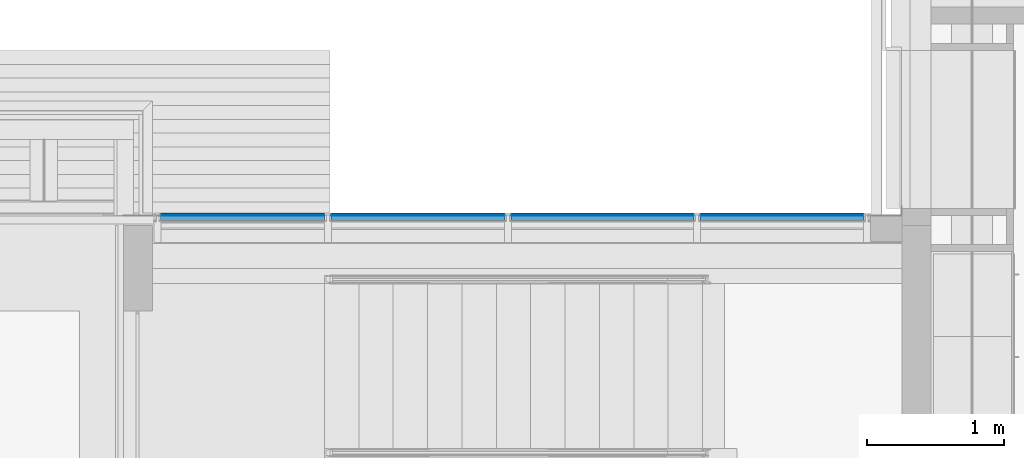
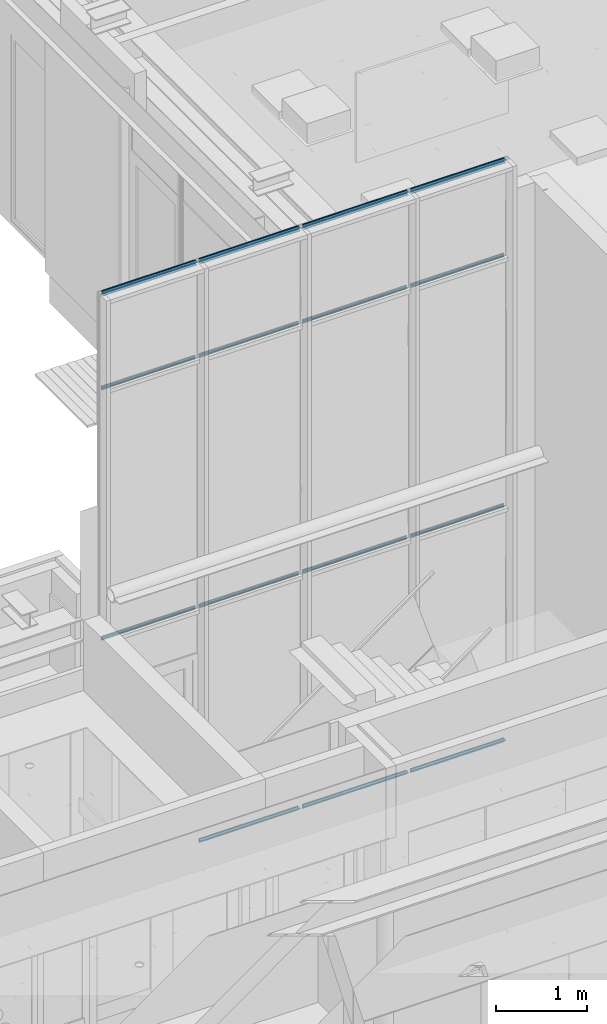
# One storey, part 102 of 347: 15 building element parts, 1 opening, 1 element without a shape of its own.
"""IFC2X3 building model written with IfcOpenShell, lengths in millimetres."""

from ifc_helpers import new_model, entity, si_unit, converted_unit, derived_unit, money_unit, direction, frame, origin_with_axes, place, context, subcontext, project, spatial, faceted_brep, material, type_object, element, aggregate, save


model = new_model("IFC2X3")

# Units and contexts
model_context = context("Model", 3, precision=0.01, world=origin_with_axes(), true_north=direction((0.0, 1.0)))
plan_context = context("Plan", 3, precision=0.01, world=origin_with_axes(), true_north=direction((0.0, 1.0)))
body_context = subcontext(model_context, "Body", "Model", "MODEL_VIEW")
ifc_project = project(units=[si_unit("LENGTHUNIT", "METRE", prefix="MILLI"), si_unit("AREAUNIT", "SQUARE_METRE"), si_unit("VOLUMEUNIT", "CUBIC_METRE"), converted_unit("PLANEANGLEUNIT", "DEGREE", entity("IfcPlaneAngleMeasure", 0.0174532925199), si_unit("PLANEANGLEUNIT", "RADIAN"), dimensions=[0, 0, 0, 0, 0, 0, 0]), money_unit("EUR"), converted_unit("TIMEUNIT", "Year", entity("IfcTimeMeasure", 31556926.0), si_unit("TIMEUNIT", "SECOND"), dimensions=[0, 0, 1, 0, 0, 0, 0]), si_unit("MASSUNIT", "GRAM", prefix="KILO"), si_unit("THERMODYNAMICTEMPERATUREUNIT", "DEGREE_CELSIUS"), si_unit("LUMINOUSINTENSITYUNIT", "LUMEN"), si_unit("ENERGYUNIT", "JOULE", prefix="MEGA"), derived_unit("THERMALCONDUCTANCEUNIT", [(si_unit("POWERUNIT", "WATT"), 1), (si_unit("LENGTHUNIT", "METRE"), -1), (si_unit("THERMODYNAMICTEMPERATUREUNIT", "KELVIN"), -1)]), derived_unit("SPECIFICHEATCAPACITYUNIT", [(si_unit("ENERGYUNIT", "JOULE"), 1), (si_unit("MASSUNIT", "GRAM", prefix="KILO"), -1), (si_unit("THERMODYNAMICTEMPERATUREUNIT", "KELVIN"), -1)]), derived_unit("MASSDENSITYUNIT", [(si_unit("MASSUNIT", "GRAM", prefix="KILO"), 1), (si_unit("VOLUMEUNIT", "CUBIC_METRE"), -1)])], contexts=[model_context, plan_context])

# Site, building, storey
site_placement = place(None, origin_with_axes())
site = spatial("IfcSite", under=ifc_project, at=site_placement, Name="Site", CompositionType="ELEMENT")
building_placement = place(site_placement, origin_with_axes())
building = spatial("IfcBuilding", under=site, at=building_placement, Name="Naam gebouw", CompositionType="ELEMENT")
storey_placement = place(building_placement, origin_with_axes())
storey = spatial("IfcBuildingStorey", under=building, at=storey_placement, Name="begane grond", CompositionType="ELEMENT", Elevation=0.0)

# Proxy, opening, building element parts
building_element_proxy_type = type_object("IfcBuildingElementProxyType", Name="31 vliesgevel drsn 212 x 8350", PredefinedType="NOTDEFINED")
proxy_placement = place(storey_placement, frame((18665.0, 18595.0, 0.0), z_axis=(0.0, 0.0, 1.0), x_axis=(1.0, 0.0, 0.0)))
proxy = element("IfcBuildingElementProxy", 1, at=proxy_placement, inside=storey, type_object=building_element_proxy_type, Name="42_53 wandtegels keramisch")
opening_placement = place(proxy_placement, frame((600.000000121, 0.0, -40.0), z_axis=(0.0, 0.0, 1.0), x_axis=(1.0, 0.0, 0.0)))
element("IfcOpeningElement", 2, at=opening_placement, cuts=proxy, Name="32_merk-C1", context=body_context, shape_type="Brep", body=[
    faceted_brep([(-601.999999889, 1541.00000358, 2640.0), (-601.999999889, 1541.00000358, 0.0), (-601.999999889, -1965.00001073, 0.0), (-601.999999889, -1965.00001073, 2640.0), (601.999999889, 1541.00000358, 2640.0), (601.999999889, 1541.00000358, 0.0), (601.999999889, -1965.00001073, 0.0), (601.999999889, -1965.00001073, 2640.0)], [[[0, 1, 2, 3]], [[0, 4, 5, 1]], [[1, 5, 6, 2]], [[3, 2, 6, 7]], [[4, 0, 3, 7]], [[5, 4, 7, 6]]]),
])
ifc_material_1 = material(Name="Metaal - Aluminium")
building_element_part_1_placement = place(proxy_placement, origin_with_axes())
building_element_part_1 = element("IfcBuildingElementPart", 3, at=building_element_part_1_placement, material=ifc_material_1, Name="Metaal - Aluminium", context=body_context, shape_type="Brep", body=[
    faceted_brep([(9.99999999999, 17.0, 7790.0), (9.99999999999, 17.0, 7840.0), (1200.0, 17.0, 7840.0), (1200.0, 17.0, 7790.0), (9.99999999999, 5.00000000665, 7840.0), (9.99999999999, 5.00000000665, 7790.0), (1200.0, 5.0, 7840.0), (1200.0, 5.0, 7790.0)], [[[0, 1, 2, 3]], [[4, 1, 0, 5]], [[1, 4, 6, 2]], [[3, 2, 6, 7]], [[5, 0, 3, 7]], [[4, 5, 7, 6]]]),
    faceted_brep([(3935.0, 17.0, 7790.0), (3935.0, 17.0, 7840.0), (5119.99999993, 17.0, 7840.0), (5119.99999993, 17.0, 7790.0), (3935.0, 5.0, 7840.0), (3935.0, 5.0, 7790.0), (5119.99999993, 5.0, 7840.0), (5119.99999993, 5.0, 7790.0)], [[[0, 1, 2, 3]], [[4, 1, 0, 5]], [[1, 4, 6, 2]], [[7, 3, 2, 6]], [[5, 0, 3, 7]], [[4, 5, 7, 6]]]),
    faceted_brep([(2560.0, 17.0, 7790.0), (2560.0, 17.0, 7840.0), (3885.0, 17.0, 7840.0), (3885.0, 17.0, 7790.0), (2560.0, 4.99999927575, 7840.0), (2560.0, 4.99999927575, 7790.0), (3885.0, 5.0, 7840.0), (3885.0, 5.0, 7790.0)], [[[0, 1, 2, 3]], [[4, 1, 0, 5]], [[1, 4, 6, 2]], [[3, 2, 6, 7]], [[5, 0, 3, 7]], [[4, 5, 7, 6]]]),
    faceted_brep([(1250.0, 17.0, 7790.0), (1250.0, 17.0, 7840.0), (2510.0, 17.0, 7840.0), (2510.0, 17.0, 7790.0), (1250.0, 5.0, 7840.0), (1250.0, 5.0, 7790.0), (2510.0, 4.99999927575, 7840.0), (2510.0, 4.99999927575, 7790.0)], [[[0, 1, 2, 3]], [[4, 1, 0, 5]], [[1, 4, 6, 2]], [[3, 2, 6, 7]], [[5, 0, 3, 7]], [[4, 5, 7, 6]]]),
])
building_element_part_2_placement = place(proxy_placement, origin_with_axes())
building_element_part_2 = element("IfcBuildingElementPart", 4, at=building_element_part_2_placement, material=ifc_material_1, Name="Metaal - Aluminium", context=body_context, shape_type="Brep", body=[
    faceted_brep([(9.99999999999, 17.0, 6510.0), (9.99999999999, 17.0, 6560.0), (1200.0, 17.0, 6560.0), (1200.0, 17.0, 6510.0), (9.99999999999, 5.00000000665, 6560.0), (9.99999999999, 5.00000000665, 6510.0), (1200.0, 5.0, 6560.0), (1200.0, 5.0, 6510.0)], [[[0, 1, 2, 3]], [[4, 1, 0, 5]], [[1, 4, 6, 2]], [[3, 2, 6, 7]], [[5, 0, 3, 7]], [[4, 5, 7, 6]]]),
    faceted_brep([(3935.0, 17.0, 6510.0), (3935.0, 17.0, 6560.0), (5119.99999993, 17.0, 6560.0), (5119.99999993, 17.0, 6510.0), (3935.0, 5.0, 6560.0), (3935.0, 5.0, 6510.0), (5119.99999993, 5.0, 6560.0), (5119.99999993, 5.0, 6510.0)], [[[0, 1, 2, 3]], [[4, 1, 0, 5]], [[1, 4, 6, 2]], [[7, 3, 2, 6]], [[5, 0, 3, 7]], [[4, 5, 7, 6]]]),
    faceted_brep([(2560.0, 17.0, 6510.0), (2560.0, 17.0, 6560.0), (3885.0, 17.0, 6560.0), (3885.0, 17.0, 6510.0), (2560.0, 4.99999927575, 6560.0), (2560.0, 4.99999927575, 6510.0), (3885.0, 5.0, 6560.0), (3885.0, 5.0, 6510.0)], [[[0, 1, 2, 3]], [[4, 1, 0, 5]], [[1, 4, 6, 2]], [[3, 2, 6, 7]], [[5, 0, 3, 7]], [[4, 5, 7, 6]]]),
    faceted_brep([(1250.0, 17.0, 6510.0), (1250.0, 17.0, 6560.0), (2510.0, 17.0, 6560.0), (2510.0, 17.0, 6510.0), (1250.0, 5.0, 6560.0), (1250.0, 5.0, 6510.0), (2510.0, 4.99999927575, 6560.0), (2510.0, 4.99999927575, 6510.0)], [[[0, 1, 2, 3]], [[4, 1, 0, 5]], [[1, 4, 6, 2]], [[3, 2, 6, 7]], [[5, 0, 3, 7]], [[4, 5, 7, 6]]]),
])
building_element_part_3_placement = place(proxy_placement, origin_with_axes())
building_element_part_3 = element("IfcBuildingElementPart", 5, at=building_element_part_3_placement, material=ifc_material_1, Name="Metaal - Aluminium", context=body_context, shape_type="Brep", body=[
    faceted_brep([(9.99999999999, 17.0, 3150.0), (9.99999999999, 17.0, 3200.0), (1200.0, 17.0, 3200.0), (1200.0, 17.0, 3150.0), (9.99999999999, 5.00000000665, 3200.0), (9.99999999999, 5.00000000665, 3150.0), (1200.0, 5.0, 3200.0), (1200.0, 5.0, 3150.0)], [[[0, 1, 2, 3]], [[4, 1, 0, 5]], [[1, 4, 6, 2]], [[3, 2, 6, 7]], [[5, 0, 3, 7]], [[4, 5, 7, 6]]]),
    faceted_brep([(3935.0, 17.0, 3150.0), (3935.0, 17.0, 3200.0), (5119.99999993, 17.0, 3200.0), (5119.99999993, 17.0, 3150.0), (3935.0, 5.0, 3200.0), (3935.0, 5.0, 3150.0), (5119.99999993, 5.0, 3200.0), (5119.99999993, 5.0, 3150.0)], [[[0, 1, 2, 3]], [[4, 1, 0, 5]], [[1, 4, 6, 2]], [[7, 3, 2, 6]], [[5, 0, 3, 7]], [[4, 5, 7, 6]]]),
    faceted_brep([(2560.0, 17.0, 3150.0), (2560.0, 17.0, 3200.0), (3885.0, 17.0, 3200.0), (3885.0, 17.0, 3150.0), (2560.0, 4.99999927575, 3200.0), (2560.0, 4.99999927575, 3150.0), (3885.0, 5.0, 3200.0), (3885.0, 5.0, 3150.0)], [[[0, 1, 2, 3]], [[4, 1, 0, 5]], [[1, 4, 6, 2]], [[3, 2, 6, 7]], [[5, 0, 3, 7]], [[4, 5, 7, 6]]]),
    faceted_brep([(1250.0, 17.0, 3150.0), (1250.0, 17.0, 3200.0), (2510.0, 17.0, 3200.0), (2510.0, 17.0, 3150.0), (1250.0, 5.0, 3200.0), (1250.0, 5.0, 3150.0), (2510.0, 4.99999927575, 3200.0), (2510.0, 4.99999927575, 3150.0)], [[[0, 1, 2, 3]], [[4, 1, 0, 5]], [[1, 4, 6, 2]], [[3, 2, 6, 7]], [[5, 0, 3, 7]], [[4, 5, 7, 6]]]),
])
building_element_part_4_placement = place(proxy_placement, origin_with_axes())
building_element_part_4 = element("IfcBuildingElementPart", 6, at=building_element_part_4_placement, material=ifc_material_1, Name="Metaal - Aluminium", context=body_context, shape_type="Brep", body=[
    faceted_brep([(3935.0, 17.0, 0.0), (3935.0, 17.0, 50.0), (5119.99999993, 17.0, 50.0), (5119.99999993, 17.0, 0.0), (3935.0, 5.0, 50.0), (3935.0, 5.0, 0.0), (5119.99999993, 5.0, 50.0), (5119.99999993, 5.0, 0.0)], [[[0, 1, 2, 3]], [[4, 1, 0, 5]], [[1, 4, 6, 2]], [[7, 3, 2, 6]], [[5, 0, 3, 7]], [[4, 5, 7, 6]]]),
    faceted_brep([(2560.0, 17.0, 0.0), (2560.0, 17.0, 50.0), (3885.0, 17.0, 50.0), (3885.0, 17.0, 0.0), (2560.0, 4.99999927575, 50.0), (2560.0, 4.99999927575, 0.0), (3885.0, 5.0, 50.0), (3885.0, 5.0, 0.0)], [[[0, 1, 2, 3]], [[4, 1, 0, 5]], [[1, 4, 6, 2]], [[3, 2, 6, 7]], [[5, 0, 3, 7]], [[4, 5, 7, 6]]]),
    faceted_brep([(1250.0, 17.0, 0.0), (1250.0, 17.0, 50.0), (2510.0, 17.0, 50.0), (2510.0, 17.0, 0.0), (1250.0, 5.0, 50.0), (1250.0, 5.0, 0.0), (2510.0, 4.99999927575, 50.0), (2510.0, 4.99999927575, 0.0)], [[[0, 1, 2, 3]], [[4, 1, 0, 5]], [[1, 4, 6, 2]], [[3, 2, 6, 7]], [[5, 0, 3, 7]], [[4, 5, 7, 6]]]),
])
ifc_material_2 = material(Name="Membraan - rubber")
building_element_part_5_placement = place(proxy_placement, origin_with_axes())
building_element_part_5 = element("IfcBuildingElementPart", 7, at=building_element_part_5_placement, material=ifc_material_2, Name="Membraan - rubber", context=body_context, shape_type="Brep", body=[
    faceted_brep([(3935.00000024, 5.00000096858, 0.0), (3935.00000024, 5.00000096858, 15.000000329), (5119.99999993, 5.00000081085, 15.000000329), (5119.99999993, 5.00000081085, 0.0), (3935.00000024, 9.44361033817e-07, 15.000000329), (3935.00000024, 9.44361033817e-07, 0.0), (3935.00000024, 9.44361033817e-07, 2.00000004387), (5119.99999993, 7.01170677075e-07, 15.000000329), (5119.99999993, 3.6814071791e-06, 2.98023516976e-06), (5119.99999993, 7.01170677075e-07, 2.00000004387)], [[[0, 1, 2, 3]], [[4, 1, 0, 5, 6]], [[1, 4, 7, 2]], [[8, 3, 2, 7, 9]], [[5, 0, 3, 8]], [[6, 5, 8, 9]], [[4, 6, 9, 7]]]),
    faceted_brep([(2560.00000024, 5.00000024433, 0.0), (2560.00000024, 5.00000024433, 15.000000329), (3885.0, 5.00000096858, 15.000000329), (3885.0, 5.00000096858, 0.0), (2560.00000024, 2.20115481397e-07, 15.000000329), (2560.00000024, 2.20115481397e-07, 0.0), (2560.00000024, 2.20115481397e-07, 2.00000004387), (3885.0, 9.44361033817e-07, 15.000000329), (3885.0, 9.44361033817e-07, 2.00000004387), (3885.0, 9.44361033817e-07, 0.0)], [[[0, 1, 2, 3]], [[4, 1, 0, 5, 6]], [[1, 4, 7, 2]], [[3, 2, 7, 8, 9]], [[5, 0, 3, 9]], [[6, 5, 9, 8]], [[4, 6, 8, 7]]]),
    faceted_brep([(1250.00000024, 5.00000096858, 0.0), (1250.00000024, 5.00000096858, 15.000000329), (2510.0, 5.00000024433, 15.000000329), (2510.0, 5.00000024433, 0.0), (1250.00000024, 9.44361033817e-07, 15.000000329), (1250.00000024, 9.44361033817e-07, 0.0), (1250.00000024, 9.44361033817e-07, 2.00000004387), (2510.0, 2.20115481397e-07, 15.000000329), (2510.0, 2.20115481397e-07, 2.00000004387), (2510.0, 2.20115481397e-07, 0.0)], [[[0, 1, 2, 3]], [[4, 1, 0, 5, 6]], [[1, 4, 7, 2]], [[3, 2, 7, 8, 9]], [[5, 0, 3, 9]], [[6, 5, 9, 8]], [[4, 6, 8, 7]]]),
])
building_element_part_6_placement = place(proxy_placement, origin_with_axes())
building_element_part_6 = element("IfcBuildingElementPart", 8, at=building_element_part_6_placement, material=ifc_material_2, Name="Membraan - rubber", context=body_context, shape_type="Brep", body=[
    faceted_brep([(10.0000002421, 5.00000097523, 7825.00000018), (10.0000002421, 5.00000097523, 7840.0), (1200.0, 5.00000096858, 7840.0), (1200.0, 5.00000096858, 7825.00000018), (10.0000002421, 9.51015266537e-07, 7840.0), (10.0000002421, 9.51015266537e-07, 7825.00000018), (10.0000002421, 9.51015266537e-07, 7838.00000024), (1200.0, 9.44361033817e-07, 7840.0), (1200.0, 9.44361033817e-07, 7838.00000024), (1200.0, 9.44361033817e-07, 7825.00000018)], [[[0, 1, 2, 3]], [[4, 1, 0, 5, 6]], [[1, 4, 7, 2]], [[3, 2, 7, 8, 9]], [[5, 0, 3, 9]], [[6, 5, 9, 8]], [[4, 6, 8, 7]]]),
    faceted_brep([(3935.00000024, 5.00000096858, 7825.00000018), (3935.00000024, 5.00000096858, 7840.0), (5119.99999993, 5.00000101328, 7840.00000025), (5119.99999993, 5.00000101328, 7825.00000018), (3935.00000024, 9.44361033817e-07, 7840.0), (3935.00000024, 9.44361033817e-07, 7825.00000018), (3935.00000024, 9.44361033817e-07, 7838.00000024), (5119.99999993, 9.87949277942e-07, 7840.00000025), (5119.99999993, 9.87949277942e-07, 7825.00000018), (5119.99999993, 9.87949277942e-07, 7838.00000024)], [[[0, 1, 2, 3]], [[4, 1, 0, 5, 6]], [[1, 4, 7, 2]], [[8, 3, 2, 7, 9]], [[5, 0, 3, 8]], [[6, 5, 8, 9]], [[4, 6, 9, 7]]]),
    faceted_brep([(2560.00000024, 5.00000024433, 7825.00000018), (2560.00000024, 5.00000024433, 7840.0), (3885.0, 5.00000096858, 7840.0), (3885.0, 5.00000096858, 7825.00000018), (2560.00000024, 2.20115481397e-07, 7840.0), (2560.00000024, 2.20115481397e-07, 7825.00000018), (2560.00000024, 2.20115481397e-07, 7838.00000024), (3885.0, 9.44361033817e-07, 7840.0), (3885.0, 9.44361033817e-07, 7838.00000024), (3885.0, 9.44361033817e-07, 7825.00000018)], [[[0, 1, 2, 3]], [[4, 1, 0, 5, 6]], [[1, 4, 7, 2]], [[3, 2, 7, 8, 9]], [[5, 0, 3, 9]], [[6, 5, 9, 8]], [[4, 6, 8, 7]]]),
    faceted_brep([(1250.00000024, 5.00000096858, 7825.00000018), (1250.00000024, 5.00000096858, 7840.0), (2510.0, 5.00000024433, 7840.0), (2510.0, 5.00000024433, 7825.00000018), (1250.00000024, 9.44361033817e-07, 7840.0), (1250.00000024, 9.44361033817e-07, 7825.00000018), (1250.00000024, 9.44361033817e-07, 7838.00000024), (2510.0, 2.20115481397e-07, 7840.0), (2510.0, 2.20115481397e-07, 7838.00000024), (2510.0, 2.20115481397e-07, 7825.00000018)], [[[0, 1, 2, 3]], [[4, 1, 0, 5, 6]], [[1, 4, 7, 2]], [[3, 2, 7, 8, 9]], [[5, 0, 3, 9]], [[6, 5, 9, 8]], [[4, 6, 8, 7]]]),
])
building_element_part_7_placement = place(proxy_placement, origin_with_axes())
building_element_part_7 = element("IfcBuildingElementPart", 9, at=building_element_part_7_placement, material=ifc_material_2, Name="Membraan - rubber", context=body_context, shape_type="Brep", body=[
    faceted_brep([(10.0000002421, 5.00000097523, 7790.0), (10.0000002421, 5.00000097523, 7805.00000008), (1200.0, 5.00000096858, 7805.00000008), (1200.0, 5.00000096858, 7790.0), (10.0000002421, 9.51015266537e-07, 7805.00000008), (10.0000002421, 9.51015266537e-07, 7790.0), (1200.0, 9.44361033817e-07, 7805.00000008), (1200.0, 9.44361033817e-07, 7790.0)], [[[0, 1, 2, 3]], [[4, 1, 0, 5]], [[1, 4, 6, 2]], [[3, 2, 6, 7]], [[5, 0, 3, 7]], [[4, 5, 7, 6]]]),
    faceted_brep([(3935.00000024, 5.00000096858, 7790.0), (3935.00000024, 5.00000096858, 7805.00000008), (5119.99999993, 5.00000101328, 7805.00000008), (5119.99999993, 5.00000101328, 7790.0), (3935.00000024, 9.44361033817e-07, 7805.00000008), (3935.00000024, 9.44361033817e-07, 7790.0), (5119.99999993, 9.87949277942e-07, 7805.00000008), (5119.99999993, 9.87949277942e-07, 7790.0)], [[[0, 1, 2, 3]], [[4, 1, 0, 5]], [[1, 4, 6, 2]], [[3, 2, 6, 7]], [[5, 0, 3, 7]], [[4, 5, 7, 6]]]),
    faceted_brep([(2560.00000024, 5.00000024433, 7790.0), (2560.00000024, 5.00000024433, 7805.00000008), (3885.0, 5.00000096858, 7805.00000008), (3885.0, 5.00000096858, 7790.0), (2560.00000024, 2.20115481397e-07, 7805.00000008), (2560.00000024, 2.20115481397e-07, 7790.0), (3885.0, 9.44361033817e-07, 7805.00000008), (3885.0, 9.44361033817e-07, 7790.0)], [[[0, 1, 2, 3]], [[4, 1, 0, 5]], [[1, 4, 6, 2]], [[3, 2, 6, 7]], [[5, 0, 3, 7]], [[4, 5, 7, 6]]]),
    faceted_brep([(1250.00000024, 5.00000096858, 7790.0), (1250.00000024, 5.00000096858, 7805.00000008), (2510.0, 5.00000024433, 7805.00000008), (2510.0, 5.00000024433, 7790.0), (1250.00000024, 9.44361033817e-07, 7805.00000008), (1250.00000024, 9.44361033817e-07, 7790.0), (2510.0, 2.20115481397e-07, 7805.00000008), (2510.0, 2.20115481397e-07, 7790.0)], [[[0, 1, 2, 3]], [[4, 1, 0, 5]], [[1, 4, 6, 2]], [[3, 2, 6, 7]], [[5, 0, 3, 7]], [[4, 5, 7, 6]]]),
])
building_element_part_8_placement = place(proxy_placement, origin_with_axes())
building_element_part_8 = element("IfcBuildingElementPart", 10, at=building_element_part_8_placement, material=ifc_material_2, Name="Membraan - rubber", context=body_context, shape_type="Brep", body=[
    faceted_brep([(3935.00000024, 5.00000096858, 35.0000007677), (3935.00000024, 5.00000096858, 50.0000010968), (5119.99999993, 5.00000081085, 50.0000010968), (5119.99999993, 5.00000081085, 35.0000007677), (3935.00000024, 9.44361033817e-07, 50.0000010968), (3935.00000024, 9.44361033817e-07, 35.0000007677), (5119.99999993, 7.01170677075e-07, 50.0000010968), (5119.99999993, 7.01170677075e-07, 35.0000007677)], [[[0, 1, 2, 3]], [[4, 1, 0, 5]], [[1, 4, 6, 2]], [[6, 7, 3, 2]], [[5, 0, 3, 7]], [[4, 5, 7, 6]]]),
    faceted_brep([(2560.00000024, 5.00000024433, 35.0000007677), (2560.00000024, 5.00000024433, 50.0000010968), (3885.0, 5.00000096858, 50.0000010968), (3885.0, 5.00000096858, 35.0000007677), (2560.00000024, 2.20115481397e-07, 50.0000010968), (2560.00000024, 2.20115481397e-07, 35.0000007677), (3885.0, 9.44361033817e-07, 50.0000010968), (3885.0, 9.44361033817e-07, 35.0000007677)], [[[0, 1, 2, 3]], [[4, 1, 0, 5]], [[1, 4, 6, 2]], [[3, 2, 6, 7]], [[5, 0, 3, 7]], [[4, 5, 7, 6]]]),
    faceted_brep([(1250.00000024, 5.00000096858, 35.0000007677), (1250.00000024, 5.00000096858, 50.0000010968), (2510.0, 5.00000024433, 50.0000010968), (2510.0, 5.00000024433, 35.0000007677), (1250.00000024, 9.44361033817e-07, 50.0000010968), (1250.00000024, 9.44361033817e-07, 35.0000007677), (2510.0, 2.20115481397e-07, 50.0000010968), (2510.0, 2.20115481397e-07, 35.0000007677)], [[[0, 1, 2, 3]], [[4, 1, 0, 5]], [[1, 4, 6, 2]], [[3, 2, 6, 7]], [[5, 0, 3, 7]], [[4, 5, 7, 6]]]),
])
building_element_part_9_placement = place(proxy_placement, origin_with_axes())
building_element_part_9 = element("IfcBuildingElementPart", 11, at=building_element_part_9_placement, material=ifc_material_2, Name="Membraan - rubber", context=body_context, shape_type="Brep", body=[
    faceted_brep([(10.0000002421, 5.00000097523, 3150.0), (10.0000002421, 5.00000097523, 3165.00000083), (1200.0, 5.00000096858, 3165.00000083), (1200.0, 5.00000096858, 3150.0), (10.0000002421, 9.51015266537e-07, 3164.99999964), (10.0000002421, 9.51015266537e-07, 3150.0), (1200.0, 9.44361033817e-07, 3164.99999964), (1200.0, 9.44361033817e-07, 3150.0)], [[[0, 1, 2, 3]], [[4, 1, 0, 5]], [[1, 4, 6, 2]], [[3, 2, 6, 7]], [[5, 0, 3, 7]], [[4, 5, 7, 6]]]),
    faceted_brep([(3935.00000024, 5.00000096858, 3150.0), (3935.00000024, 5.00000096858, 3165.00000083), (5119.99999993, 5.0, 3165.00000083), (5119.99999993, 5.0, 3150.0), (3935.00000024, 9.44361033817e-07, 3164.99999964), (3935.00000024, 9.44361033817e-07, 3150.0), (5119.99999993, -6.74667433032e-07, 3164.99999964), (5119.99999993, -7.86215537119e-08, 3150.0)], [[[0, 1, 2, 3]], [[4, 1, 0, 5]], [[1, 4, 6, 2]], [[7, 3, 2, 6]], [[5, 0, 3, 7]], [[4, 5, 7, 6]]]),
    faceted_brep([(2560.00000024, 5.00000024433, 3150.0), (2560.00000024, 5.00000024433, 3165.00000083), (3885.0, 5.00000096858, 3165.00000083), (3885.0, 5.00000096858, 3150.0), (2560.00000024, 2.20115481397e-07, 3164.99999964), (2560.00000024, 2.20115481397e-07, 3150.0), (3885.0, 9.44361033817e-07, 3164.99999964), (3885.0, 9.44361033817e-07, 3150.0)], [[[0, 1, 2, 3]], [[4, 1, 0, 5]], [[1, 4, 6, 2]], [[3, 2, 6, 7]], [[5, 0, 3, 7]], [[4, 5, 7, 6]]]),
    faceted_brep([(1250.00000024, 5.00000096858, 3150.0), (1250.00000024, 5.00000096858, 3165.00000083), (2510.0, 5.00000024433, 3165.00000083), (2510.0, 5.00000024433, 3150.0), (1250.00000024, 9.44361033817e-07, 3164.99999964), (1250.00000024, 9.44361033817e-07, 3150.0), (2510.0, 2.20115481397e-07, 3164.99999964), (2510.0, 2.20115481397e-07, 3150.0)], [[[0, 1, 2, 3]], [[4, 1, 0, 5]], [[1, 4, 6, 2]], [[3, 2, 6, 7]], [[5, 0, 3, 7]], [[4, 5, 7, 6]]]),
])
building_element_part_10_placement = place(proxy_placement, origin_with_axes())
building_element_part_10 = element("IfcBuildingElementPart", 12, at=building_element_part_10_placement, material=ifc_material_2, Name="Membraan - rubber", context=body_context, shape_type="Brep", body=[
    faceted_brep([(10.0000002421, 5.00000097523, 6510.0), (10.0000002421, 5.00000097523, 6525.00000083), (1200.0, 5.00000096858, 6525.00000083), (1200.0, 5.00000096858, 6510.0), (10.0000002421, 9.51015266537e-07, 6524.99999964), (10.0000002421, 9.51015266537e-07, 6510.0), (1200.0, 9.44361033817e-07, 6524.99999964), (1200.0, 9.44361033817e-07, 6510.0)], [[[0, 1, 2, 3]], [[4, 1, 0, 5]], [[1, 4, 6, 2]], [[3, 2, 6, 7]], [[5, 0, 3, 7]], [[4, 5, 7, 6]]]),
    faceted_brep([(3935.00000024, 5.00000096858, 6510.0), (3935.00000024, 5.00000096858, 6525.00000083), (5119.99999993, 5.0, 6525.00000083), (5119.99999993, 5.0, 6510.0), (3935.00000024, 9.44361033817e-07, 6524.99999964), (3935.00000024, 9.44361033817e-07, 6510.0), (5119.99999993, -6.74667433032e-07, 6524.99999964), (5119.99999993, -7.86215537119e-08, 6510.0)], [[[0, 1, 2, 3]], [[4, 1, 0, 5]], [[1, 4, 6, 2]], [[3, 2, 6, 7]], [[5, 0, 3, 7]], [[4, 5, 7, 6]]]),
    faceted_brep([(2560.00000024, 5.00000024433, 6510.0), (2560.00000024, 5.00000024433, 6525.00000083), (3885.0, 5.00000096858, 6525.00000083), (3885.0, 5.00000096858, 6510.0), (2560.00000024, 2.20115481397e-07, 6524.99999964), (2560.00000024, 2.20115481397e-07, 6510.0), (3885.0, 9.44361033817e-07, 6524.99999964), (3885.0, 9.44361033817e-07, 6510.0)], [[[0, 1, 2, 3]], [[4, 1, 0, 5]], [[1, 4, 6, 2]], [[3, 2, 6, 7]], [[5, 0, 3, 7]], [[4, 5, 7, 6]]]),
    faceted_brep([(1250.00000024, 5.00000096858, 6510.0), (1250.00000024, 5.00000096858, 6525.00000083), (2510.0, 5.00000024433, 6525.00000083), (2510.0, 5.00000024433, 6510.0), (1250.00000024, 9.44361033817e-07, 6524.99999964), (1250.00000024, 9.44361033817e-07, 6510.0), (2510.0, 2.20115481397e-07, 6524.99999964), (2510.0, 2.20115481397e-07, 6510.0)], [[[0, 1, 2, 3]], [[4, 1, 0, 5]], [[1, 4, 6, 2]], [[3, 2, 6, 7]], [[5, 0, 3, 7]], [[4, 5, 7, 6]]]),
])
building_element_part_11_placement = place(proxy_placement, origin_with_axes())
building_element_part_11 = element("IfcBuildingElementPart", 13, at=building_element_part_11_placement, material=ifc_material_2, Name="Membraan - rubber", context=body_context, shape_type="Brep", body=[
    faceted_brep([(10.0000002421, 5.00000097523, 6545.00000011), (10.0000002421, 5.00000097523, 6559.99999975), (1200.0, 5.00000096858, 6559.99999975), (1200.0, 5.00000096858, 6545.00000011), (10.0000002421, 9.51015266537e-07, 6559.99999975), (10.0000002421, 9.51015266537e-07, 6545.00000011), (1200.0, 9.44361033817e-07, 6559.99999975), (1200.0, 9.44361033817e-07, 6545.00000011)], [[[0, 1, 2, 3]], [[4, 1, 0, 5]], [[1, 4, 6, 2]], [[3, 2, 6, 7]], [[5, 0, 3, 7]], [[4, 5, 7, 6]]]),
    faceted_brep([(3935.00000024, 5.00000096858, 6545.00000011), (3935.00000024, 5.00000096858, 6559.99999975), (5119.99999993, 5.0, 6559.99999975), (5119.99999993, 5.0, 6545.00000011), (3935.00000024, 9.44361033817e-07, 6559.99999975), (3935.00000024, 9.44361033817e-07, 6545.00000011), (5119.99999993, -7.86215537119e-08, 6559.99999975), (5119.99999993, -6.74667433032e-07, 6545.00000011)], [[[0, 1, 2, 3]], [[4, 1, 0, 5]], [[1, 4, 6, 2]], [[7, 3, 2, 6]], [[5, 0, 3, 7]], [[4, 5, 7, 6]]]),
    faceted_brep([(2560.00000024, 5.00000024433, 6545.00000011), (2560.00000024, 5.00000024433, 6559.99999975), (3885.0, 5.00000096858, 6559.99999975), (3885.0, 5.00000096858, 6545.00000011), (2560.00000024, 2.20115481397e-07, 6559.99999975), (2560.00000024, 2.20115481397e-07, 6545.00000011), (3885.0, 9.44361033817e-07, 6559.99999975), (3885.0, 9.44361033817e-07, 6545.00000011)], [[[0, 1, 2, 3]], [[4, 1, 0, 5]], [[1, 4, 6, 2]], [[3, 2, 6, 7]], [[5, 0, 3, 7]], [[4, 5, 7, 6]]]),
    faceted_brep([(1250.00000024, 5.00000096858, 6545.00000011), (1250.00000024, 5.00000096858, 6559.99999975), (2510.0, 5.00000024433, 6559.99999975), (2510.0, 5.00000024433, 6545.00000011), (1250.00000024, 9.44361033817e-07, 6559.99999975), (1250.00000024, 9.44361033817e-07, 6545.00000011), (2510.0, 2.20115481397e-07, 6559.99999975), (2510.0, 2.20115481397e-07, 6545.00000011)], [[[0, 1, 2, 3]], [[4, 1, 0, 5]], [[1, 4, 6, 2]], [[3, 2, 6, 7]], [[5, 0, 3, 7]], [[4, 5, 7, 6]]]),
])
building_element_part_12_placement = place(proxy_placement, origin_with_axes())
building_element_part_12 = element("IfcBuildingElementPart", 14, at=building_element_part_12_placement, material=ifc_material_2, Name="Membraan - rubber", context=body_context, shape_type="Brep", body=[
    faceted_brep([(10.0000002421, 5.00000097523, 3185.00000011), (10.0000002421, 5.00000097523, 3199.99999975), (1200.0, 5.00000096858, 3199.99999975), (1200.0, 5.00000096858, 3185.00000011), (10.0000002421, 9.51015266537e-07, 3199.99999975), (10.0000002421, 9.51015266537e-07, 3185.00000011), (1200.0, 9.44361033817e-07, 3199.99999975), (1200.0, 9.44361033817e-07, 3185.00000011)], [[[0, 1, 2, 3]], [[4, 1, 0, 5]], [[1, 4, 6, 2]], [[3, 2, 6, 7]], [[5, 0, 3, 7]], [[4, 5, 7, 6]]]),
    faceted_brep([(3935.00000024, 5.00000096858, 3185.00000011), (3935.00000024, 5.00000096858, 3199.99999975), (5119.99999993, 5.0, 3199.99999975), (5119.99999993, 5.0, 3185.00000011), (3935.00000024, 9.44361033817e-07, 3199.99999975), (3935.00000024, 9.44361033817e-07, 3185.00000011), (5119.99999993, -7.86215537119e-08, 3199.99999975), (5119.99999993, -6.74667433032e-07, 3185.00000011)], [[[0, 1, 2, 3]], [[4, 1, 0, 5]], [[1, 4, 6, 2]], [[6, 7, 3, 2]], [[5, 0, 3, 7]], [[4, 5, 7, 6]]]),
    faceted_brep([(2560.00000024, 5.00000024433, 3185.00000011), (2560.00000024, 5.00000024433, 3199.99999975), (3885.0, 5.00000096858, 3199.99999975), (3885.0, 5.00000096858, 3185.00000011), (2560.00000024, 2.20115481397e-07, 3199.99999975), (2560.00000024, 2.20115481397e-07, 3185.00000011), (3885.0, 9.44361033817e-07, 3199.99999975), (3885.0, 9.44361033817e-07, 3185.00000011)], [[[0, 1, 2, 3]], [[4, 1, 0, 5]], [[1, 4, 6, 2]], [[3, 2, 6, 7]], [[5, 0, 3, 7]], [[4, 5, 7, 6]]]),
    faceted_brep([(1250.00000024, 5.00000096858, 3185.00000011), (1250.00000024, 5.00000096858, 3199.99999975), (2510.0, 5.00000024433, 3199.99999975), (2510.0, 5.00000024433, 3185.00000011), (1250.00000024, 9.44361033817e-07, 3199.99999975), (1250.00000024, 9.44361033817e-07, 3185.00000011), (2510.0, 2.20115481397e-07, 3199.99999975), (2510.0, 2.20115481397e-07, 3185.00000011)], [[[0, 1, 2, 3]], [[4, 1, 0, 5]], [[1, 4, 6, 2]], [[3, 2, 6, 7]], [[5, 0, 3, 7]], [[4, 5, 7, 6]]]),
])
building_element_part_13_placement = place(proxy_placement, origin_with_axes())
building_element_part_13 = element("IfcBuildingElementPart", 15, at=building_element_part_13_placement, material=ifc_material_2, Name="Membraan - rubber", context=body_context, shape_type="Brep", body=[
    faceted_brep([(8.00000023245, 9.51015266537e-07, 7792.00000001), (8.00000023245, 9.51015266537e-07, 7805.00000008), (1202.00000001, 9.44361033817e-07, 7805.00000008), (1202.00000001, 9.44361033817e-07, 7792.00000001), (8.00000023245, -34.9999992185, 7805.00000008), (8.00000023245, -34.9999992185, 7792.00000001), (1202.00000001, -34.9999992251, 7805.00000008), (1202.00000001, -34.9999992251, 7792.00000001)], [[[0, 1, 2, 3]], [[4, 1, 0, 5]], [[1, 4, 6, 2]], [[3, 2, 6, 7]], [[5, 0, 3, 7]], [[4, 5, 7, 6]]]),
    faceted_brep([(3933.00000023, 9.44361033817e-07, 7792.00000001), (3933.00000023, 9.44361033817e-07, 7805.00000008), (5119.99999993, 9.87949277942e-07, 7805.00000008), (5119.99999993, 9.87949277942e-07, 7792.00000001), (3933.00000023, -34.9999992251, 7805.00000008), (3933.00000023, -34.9999992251, 7792.00000001), (5119.99999993, -34.9999991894, 7805.00000008), (5119.99999993, -34.9999991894, 7792.00000001)], [[[0, 1, 2, 3]], [[4, 1, 0, 5]], [[1, 4, 6, 2]], [[2, 6, 7, 3]], [[5, 0, 3, 7]], [[4, 5, 7, 6]]]),
    faceted_brep([(2558.00000023, 2.20115481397e-07, 7792.00000001), (2558.00000023, 2.20115481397e-07, 7805.00000008), (3887.00000001, 9.44361033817e-07, 7805.00000008), (3887.00000001, 9.44361033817e-07, 7792.00000001), (2558.00000023, -34.9999999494, 7805.00000008), (2558.00000023, -34.9999999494, 7792.00000001), (3887.00000001, -34.9999992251, 7805.00000008), (3887.00000001, -34.9999992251, 7792.00000001)], [[[0, 1, 2, 3]], [[4, 1, 0, 5]], [[1, 4, 6, 2]], [[3, 2, 6, 7]], [[5, 0, 3, 7]], [[4, 5, 7, 6]]]),
    faceted_brep([(1248.00000023, 9.44361033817e-07, 7792.00000001), (1248.00000023, 9.44361033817e-07, 7805.00000008), (2512.00000001, 2.20115481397e-07, 7805.00000008), (2512.00000001, 2.20115481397e-07, 7792.00000001), (1248.00000023, -34.9999992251, 7805.00000008), (1248.00000023, -34.9999992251, 7792.00000001), (2512.00000001, -34.9999999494, 7805.00000008), (2512.00000001, -34.9999999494, 7792.00000001)], [[[0, 1, 2, 3]], [[4, 1, 0, 5]], [[1, 4, 6, 2]], [[3, 2, 6, 7]], [[5, 0, 3, 7]], [[4, 5, 7, 6]]]),
])
building_element_part_14_placement = place(proxy_placement, origin_with_axes())
building_element_part_14 = element("IfcBuildingElementPart", 16, at=building_element_part_14_placement, material=ifc_material_2, Name="Membraan - rubber", context=body_context, shape_type="Brep", body=[
    faceted_brep([(8.00000023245, 9.51015266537e-07, 7825.00000018), (8.00000023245, 9.51015266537e-07, 7838.00000024), (1202.00000001, 9.44361033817e-07, 7838.00000024), (1202.00000001, 9.44361033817e-07, 7825.00000018), (8.00000023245, -34.9999992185, 7838.00000024), (8.00000023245, -34.9999992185, 7825.00000018), (1202.00000001, -34.9999992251, 7838.00000024), (1202.00000001, -34.9999992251, 7825.00000018)], [[[0, 1, 2, 3]], [[4, 1, 0, 5]], [[1, 4, 6, 2]], [[3, 2, 6, 7]], [[5, 0, 3, 7]], [[4, 5, 7, 6]]]),
    faceted_brep([(3933.00000023, 9.44361033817e-07, 7825.00000018), (3933.00000023, 9.44361033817e-07, 7838.00000024), (5119.99999993, 9.87949277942e-07, 7838.00000024), (5119.99999993, 9.87949277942e-07, 7825.00000018), (3933.00000023, -34.9999992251, 7838.00000024), (3933.00000023, -34.9999992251, 7825.00000018), (5119.99999993, -34.9999991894, 7838.00000024), (5119.99999993, -34.9999991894, 7825.00000018)], [[[0, 1, 2, 3]], [[4, 1, 0, 5]], [[1, 4, 6, 2]], [[2, 6, 7, 3]], [[5, 0, 3, 7]], [[4, 5, 7, 6]]]),
    faceted_brep([(2558.00000023, 2.20115481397e-07, 7825.00000018), (2558.00000023, 2.20115481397e-07, 7838.00000024), (3887.00000001, 9.44361033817e-07, 7838.00000024), (3887.00000001, 9.44361033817e-07, 7825.00000018), (2558.00000023, -34.9999999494, 7838.00000024), (2558.00000023, -34.9999999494, 7825.00000018), (3887.00000001, -34.9999992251, 7838.00000024), (3887.00000001, -34.9999992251, 7825.00000018)], [[[0, 1, 2, 3]], [[4, 1, 0, 5]], [[1, 4, 6, 2]], [[3, 2, 6, 7]], [[5, 0, 3, 7]], [[4, 5, 7, 6]]]),
    faceted_brep([(1248.00000023, 9.44361033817e-07, 7825.00000018), (1248.00000023, 9.44361033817e-07, 7838.00000024), (2512.00000001, 2.20115481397e-07, 7838.00000024), (2512.00000001, 2.20115481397e-07, 7825.00000018), (1248.00000023, -34.9999992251, 7838.00000024), (1248.00000023, -34.9999992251, 7825.00000018), (2512.00000001, -34.9999999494, 7838.00000024), (2512.00000001, -34.9999999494, 7825.00000018)], [[[0, 1, 2, 3]], [[4, 1, 0, 5]], [[1, 4, 6, 2]], [[3, 2, 6, 7]], [[5, 0, 3, 7]], [[4, 5, 7, 6]]]),
])
building_element_part_15_placement = place(proxy_placement, origin_with_axes())
building_element_part_15 = element("IfcBuildingElementPart", 17, at=building_element_part_15_placement, material=ifc_material_2, Name="Membraan - rubber", context=body_context, shape_type="Brep", body=[
    faceted_brep([(3933.00000023, 9.44361033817e-07, 35.0000007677), (3933.00000023, 9.44361033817e-07, 48.0000010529), (5119.99999993, 7.01170677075e-07, 48.0000010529), (5119.99999993, 7.01170677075e-07, 35.0000007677), (3933.00000023, -34.9999992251, 48.0000010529), (3933.00000023, -34.9999992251, 35.0000007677), (5119.99999993, -35.0000000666, 48.0000010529), (5119.99999993, -35.0000000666, 35.0000007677)], [[[0, 1, 2, 3]], [[4, 1, 0, 5]], [[1, 4, 6, 2]], [[3, 2, 6, 7]], [[5, 0, 3, 7]], [[4, 5, 7, 6]]]),
    faceted_brep([(2558.00000023, 2.20115481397e-07, 35.0000007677), (2558.00000023, 2.20115481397e-07, 48.0000010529), (3887.00000001, 9.44361033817e-07, 48.0000010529), (3887.00000001, 9.44361033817e-07, 35.0000007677), (2558.00000023, -34.9999999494, 48.0000010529), (2558.00000023, -34.9999999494, 35.0000007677), (3887.00000001, -34.9999992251, 48.0000010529), (3887.00000001, -34.9999992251, 35.0000007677)], [[[0, 1, 2, 3]], [[4, 1, 0, 5]], [[1, 4, 6, 2]], [[3, 2, 6, 7]], [[5, 0, 3, 7]], [[4, 5, 7, 6]]]),
    faceted_brep([(1248.00000023, 9.44361033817e-07, 35.0000007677), (1248.00000023, 9.44361033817e-07, 48.0000010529), (2512.00000001, 2.20115481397e-07, 48.0000010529), (2512.00000001, 2.20115481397e-07, 35.0000007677), (1248.00000023, -34.9999992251, 48.0000010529), (1248.00000023, -34.9999992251, 35.0000007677), (2512.00000001, -34.9999999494, 48.0000010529), (2512.00000001, -34.9999999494, 35.0000007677)], [[[0, 1, 2, 3]], [[4, 1, 0, 5]], [[1, 4, 6, 2]], [[3, 2, 6, 7]], [[5, 0, 3, 7]], [[4, 5, 7, 6]]]),
])
aggregate(proxy, [building_element_part_1, building_element_part_2, building_element_part_3, building_element_part_4, building_element_part_5, building_element_part_6, building_element_part_7, building_element_part_8, building_element_part_9, building_element_part_10, building_element_part_11, building_element_part_12, building_element_part_13, building_element_part_14, building_element_part_15])

save(model, "model.ifc")
